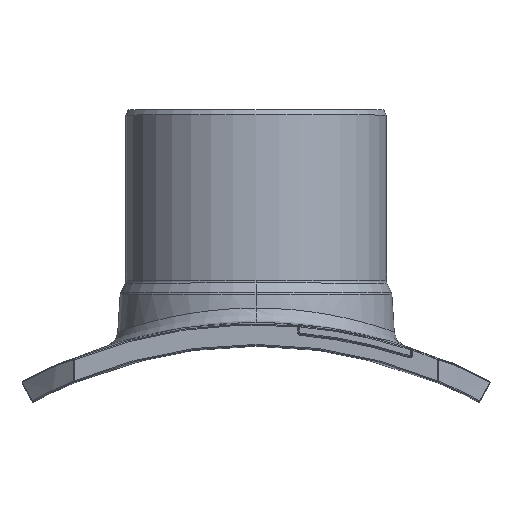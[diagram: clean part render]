
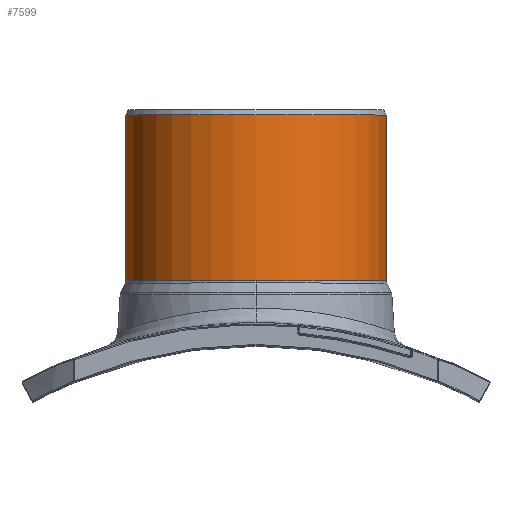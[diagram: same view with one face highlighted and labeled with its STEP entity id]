
A CAD part, top view. The second image highlights one B-rep face of the part: STEP entity #7599.
In plain terms, the highlighted cylindrical face has radius 125 mm (diameter 250 mm), a partial arc.
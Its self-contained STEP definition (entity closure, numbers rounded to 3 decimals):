
#1532=CARTESIAN_POINT('',(0.,512.083,0.));
#1533=DIRECTION('',(0.,-1.,0.));
#1534=DIRECTION('',(1.,0.,0.));
#1535=AXIS2_PLACEMENT_3D('',#1532,#1533,#1534);
#1540=CARTESIAN_POINT('',(0.,512.083,0.));
#1541=DIRECTION('',(0.,-1.,0.));
#1542=DIRECTION('',(0.,0.,1.));
#1543=AXIS2_PLACEMENT_3D('',#1540,#1541,#1542);
#1548=DIRECTION('',(0.,-1.,0.));
#1549=VECTOR('',#1548,158.917);
#1550=CARTESIAN_POINT('',(-125.,671.,0.));
#1551=LINE('151588',#1550,#1549);
#1555=DIRECTION('',(0.,-1.,0.));
#1556=VECTOR('',#1555,158.917);
#1557=CARTESIAN_POINT('',(125.,671.,0.));
#1558=LINE('151587',#1557,#1556);
#1609=CARTESIAN_POINT('',(0.,671.,0.));
#1610=DIRECTION('',(0.,1.,0.));
#1611=DIRECTION('',(-1.,0.,0.));
#1612=AXIS2_PLACEMENT_3D('',#1609,#1610,#1611);
#6015=CARTESIAN_POINT('',(125.,671.,0.));
#6016=CARTESIAN_POINT('',(-125.,671.,0.));
#6017=VERTEX_POINT('',#6015);
#6018=VERTEX_POINT('',#6016);
#6039=CARTESIAN_POINT('',(125.,512.083,0.));
#6040=CARTESIAN_POINT('',(0.,512.083,125.));
#6041=VERTEX_POINT('',#6039);
#6042=VERTEX_POINT('',#6040);
#6043=CARTESIAN_POINT('',(-125.,512.083,0.));
#6044=VERTEX_POINT('',#6043);
#7584=CARTESIAN_POINT('',(0.,676.,0.));
#7585=DIRECTION('',(0.,1.,0.));
#7586=DIRECTION('',(1.,0.,0.));
#7587=AXIS2_PLACEMENT_3D('',#7584,#7585,#7586);
#7588=CYLINDRICAL_SURFACE('4584',#7587,125.);
#7589=ORIENTED_EDGE('151579',*,*,#7561,.T.);
#7590=ORIENTED_EDGE('151581',*,*,#7576,.T.);
#7592=ORIENTED_EDGE('151588',*,*,#7591,.F.);
#7594=ORIENTED_EDGE('4600',*,*,#7593,.T.);
#7596=ORIENTED_EDGE('151587',*,*,#7595,.T.);
#7597=EDGE_LOOP('4584',(#7589,#7590,#7592,#7594,#7596));
#7598=FACE_OUTER_BOUND('4584',#7597,.F.);
#1536=CIRCLE('151579',#1535,125.);
#1544=CIRCLE('151581',#1543,125.);
#1613=CIRCLE('4600',#1612,125.);
#7561=EDGE_CURVE('151579',#6041,#6042,#1536,.T.);
#7576=EDGE_CURVE('151581',#6042,#6044,#1544,.T.);
#7591=EDGE_CURVE('151588',#6018,#6044,#1551,.T.);
#7593=EDGE_CURVE('4600',#6018,#6017,#1613,.T.);
#7595=EDGE_CURVE('151587',#6017,#6041,#1558,.T.);
#7599=ADVANCED_FACE('4584',(#7598),#7588,.T.);
